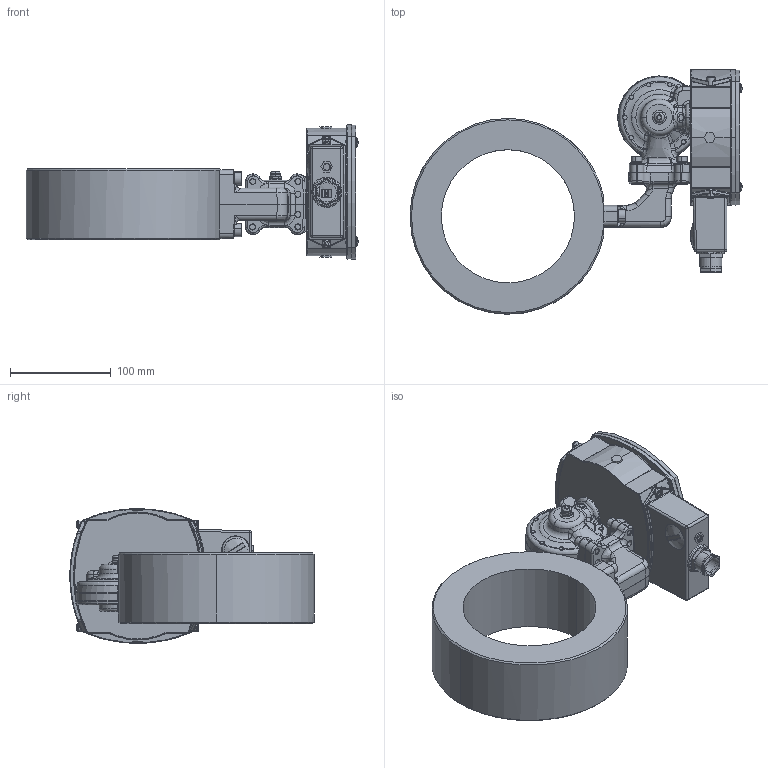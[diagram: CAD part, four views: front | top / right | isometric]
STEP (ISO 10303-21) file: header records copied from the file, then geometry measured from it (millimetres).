
FILE_DESCRIPTION (( 'STEP AP214' ), '1' );
FILE_NAME ('S FA125.STEP', '2016-09-21T07:40:10', ( 'User' ), ( 'HP' ), 'SwSTEP 2.0', 'SolidWorks 2016', '' );
FILE_SCHEMA (( 'AUTOMOTIVE_DESIGN' ));
Length unit declared in the file: millimetre
Products named in the file (35): ID_13; FA125 anslutningsror; ID_12; fa hals; ID_1_1; ID_2_2; ID_1_4_5; ID_1_2; ID_10; membranhus br; ID_1_4_4; M5 membranskruvar_1; ID_1_4_3; skruv_membranhus_1; ID_1_1_2; fj_X_E4derbricka till membranhus BR_1; ID_9; MC6S M6x22_1; ID_1_4_2; Lock kontrollerad HMAB ELETTA 20160908_1; ID_7_2; ID_6_1; Membranhus kontrollerad HMAB ELETTA 20160908_1; ID_5_2; ID_4_3; S2_25_internal_2_1; ID_3_3; kupolmutter_1; ID_2_4; m_X_E4ssingsmembran_1; ID_1_4; S hus; ID_1_4_8; S FA125; ID_14
Assembly tree (54 placements, depth 5):
  S FA125
    S hus
      ID_1_1
        ID_1_4
        ID_2_4
        ID_3_3
        ID_4_3
        ID_5_2
        ID_6_1  x4
        ID_7_2  x4
        ID_1_4_2
        ID_1_1_2
          ID_9  x2
        ID_1_4_3
        ID_1_4_4
        ID_10
        ID_1_4_5
      ID_12  x2
      ID_13
      ID_14
      ID_1_4_8
    membranhus br
      S2_25_internal_2_1
        m_X_E4ssingsmembran_1
        kupolmutter_1
      Membranhus kontrollerad HMAB ELETTA 20160908_1
      Lock kontrollerad HMAB ELETTA 20160908_1
      MC6S M6x22_1  x4
      M5 membranskruvar_1  x9
        fj_X_E4derbricka till membranhus BR_1
        skruv_membranhus_1
    fa hals
      ID_1_2
      ID_2_2  x2
    FA125 anslutningsror
Bounding box: 329 x 242.21 x 133.42 mm (x, y, z)
Volume: 1597009.9 mm3; surface area: 351475.2 mm2
Topology: 56 solids, 56 shells, 2415 faces, 5937 edges, 3684 vertices
Faces by surface type: plane 862, cylinder 687, bspline 585, cone 207, torus 67, sphere 7
Entity records: 101069 total; most frequent: CARTESIAN_POINT 58774, ORIENTED_EDGE 9340, DIRECTION 7188, EDGE_CURVE 4670, VERTEX_POINT 2917, AXIS2_PLACEMENT_3D 2681, EDGE_LOOP 2107, ADVANCED_FACE 1892
